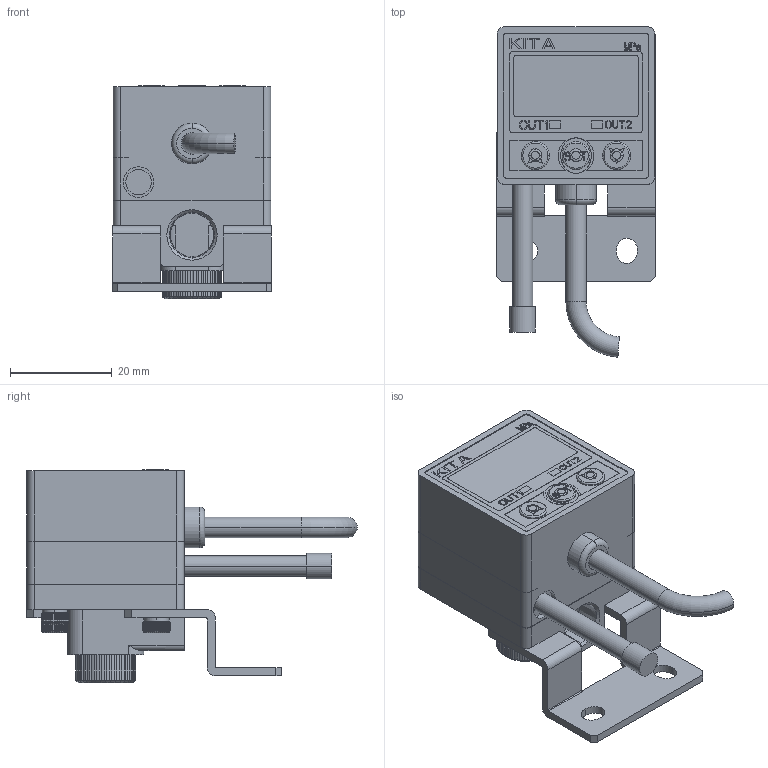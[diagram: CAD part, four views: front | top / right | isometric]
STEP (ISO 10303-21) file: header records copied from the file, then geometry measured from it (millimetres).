
FILE_DESCRIPTION((''),'2;1');
FILE_NAME('KP25_BT-1','2019-07-04T',('Stark'),(''),'CREO PARAMETRIC BY PTC INC, 2014500','CREO PARAMETRIC BY PTC INC, 2014500','');
FILE_SCHEMA(('CONFIG_CONTROL_DESIGN'));
Products named in the file (1): KP25_BT-1
Bounding box: 31.2 x 64.96 x 42 mm (x, y, z)
Volume: 31257.7 mm3; surface area: 9890.3 mm2
Topology: 2 solids, 4 shells, 1619 faces, 4274 edges, 2717 vertices
Faces by surface type: plane 898, cylinder 343, bspline 196, cone 158, torus 18, extrusion 6
Entity records: 64614 total; most frequent: CARTESIAN_POINT 26684, ORIENTED_EDGE 8544, DIRECTION 6909, EDGE_CURVE 4272, VERTEX_POINT 2717, VECTOR 2379, LINE 2373, AXIS2_PLACEMENT_3D 2265
